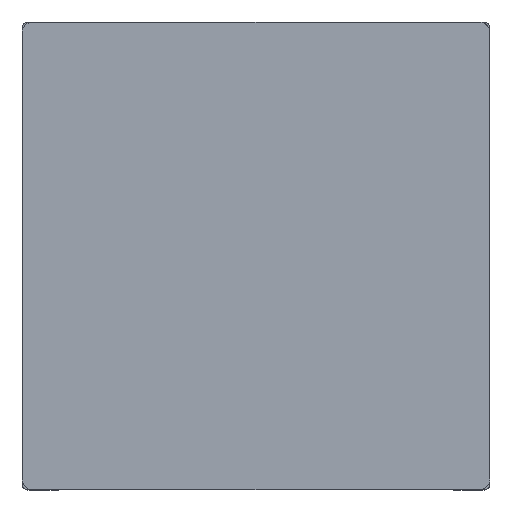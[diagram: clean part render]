
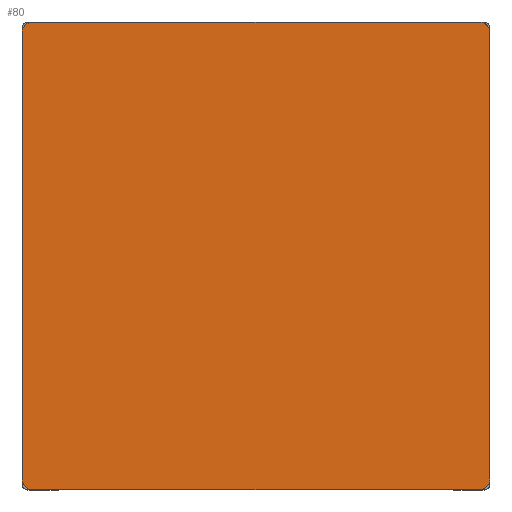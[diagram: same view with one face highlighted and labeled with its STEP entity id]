
A CAD part, top view. The second image highlights one B-rep face of the part: STEP entity #80.
In plain terms, the highlighted planar face has unit normal (0, 0, 1).
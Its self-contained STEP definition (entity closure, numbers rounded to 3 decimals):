
#80=ADVANCED_FACE($,(#238),#2098,.T.);
#238=FACE_OUTER_BOUND($,#396,.T.);
#396=EDGE_LOOP($,(#596,#597,#598,#599,#600,#601,#602,#603));
#596=ORIENTED_EDGE($,*,*,#1391,.F.);
#597=ORIENTED_EDGE($,*,*,#1382,.F.);
#598=ORIENTED_EDGE($,*,*,#1390,.F.);
#599=ORIENTED_EDGE($,*,*,#1381,.F.);
#600=ORIENTED_EDGE($,*,*,#1389,.F.);
#601=ORIENTED_EDGE($,*,*,#1380,.F.);
#602=ORIENTED_EDGE($,*,*,#1388,.F.);
#603=ORIENTED_EDGE($,*,*,#1383,.F.);
#1380=EDGE_CURVE($,#1781,#1780,#2350,.T.);
#1381=EDGE_CURVE($,#1783,#1782,#2351,.T.);
#1382=EDGE_CURVE($,#1785,#1784,#2352,.T.);
#1383=EDGE_CURVE($,#1787,#1786,#2353,.T.);
#1388=EDGE_CURVE($,#1786,#1781,#2166,.T.);
#1389=EDGE_CURVE($,#1780,#1783,#2167,.T.);
#1390=EDGE_CURVE($,#1782,#1785,#2168,.T.);
#1391=EDGE_CURVE($,#1784,#1787,#2169,.T.);
#1780=VERTEX_POINT($,#2918);
#1781=VERTEX_POINT($,#2919);
#1782=VERTEX_POINT($,#2920);
#1783=VERTEX_POINT($,#2921);
#1784=VERTEX_POINT($,#2922);
#1785=VERTEX_POINT($,#2923);
#1786=VERTEX_POINT($,#2924);
#1787=VERTEX_POINT($,#2925);
#2098=PLANE($,#2648);
#2166=(
BOUNDED_CURVE()
B_SPLINE_CURVE(2,(#2812,#2813,#2814),.UNSPECIFIED.,.F.,.F.)
B_SPLINE_CURVE_WITH_KNOTS((3,3),(-1.,0.),.UNSPECIFIED.)
CURVE()
GEOMETRIC_REPRESENTATION_ITEM()
RATIONAL_B_SPLINE_CURVE((1.,0.707,1.))
REPRESENTATION_ITEM($)
);
#2167=(
BOUNDED_CURVE()
B_SPLINE_CURVE(2,(#2815,#2816,#2817),.UNSPECIFIED.,.F.,.F.)
B_SPLINE_CURVE_WITH_KNOTS((3,3),(0.,1.),.UNSPECIFIED.)
CURVE()
GEOMETRIC_REPRESENTATION_ITEM()
RATIONAL_B_SPLINE_CURVE((1.,0.707,1.))
REPRESENTATION_ITEM($)
);
#2168=(
BOUNDED_CURVE()
B_SPLINE_CURVE(2,(#2818,#2819,#2820),.UNSPECIFIED.,.F.,.F.)
B_SPLINE_CURVE_WITH_KNOTS((3,3),(0.,1.),.UNSPECIFIED.)
CURVE()
GEOMETRIC_REPRESENTATION_ITEM()
RATIONAL_B_SPLINE_CURVE((1.,0.707,1.))
REPRESENTATION_ITEM($)
);
#2169=(
BOUNDED_CURVE()
B_SPLINE_CURVE(2,(#2821,#2822,#2823),.UNSPECIFIED.,.F.,.F.)
B_SPLINE_CURVE_WITH_KNOTS((3,3),(0.,1.),.UNSPECIFIED.)
CURVE()
GEOMETRIC_REPRESENTATION_ITEM()
RATIONAL_B_SPLINE_CURVE((1.,0.707,1.))
REPRESENTATION_ITEM($)
);
#2350=B_SPLINE_CURVE_WITH_KNOTS($,1,(#2792,#2793),.UNSPECIFIED.,.F.,.F.,
(2,2),(30.,1270.),.UNSPECIFIED.);
#2351=B_SPLINE_CURVE_WITH_KNOTS($,1,(#2794,#2795),.UNSPECIFIED.,.F.,.F.,
(2,2),(30.,1270.),.UNSPECIFIED.);
#2352=B_SPLINE_CURVE_WITH_KNOTS($,1,(#2796,#2797),.UNSPECIFIED.,.F.,.F.,
(2,2),(30.,1270.),.UNSPECIFIED.);
#2353=B_SPLINE_CURVE_WITH_KNOTS($,1,(#2798,#2799),.UNSPECIFIED.,.F.,.F.,
(2,2),(30.,1270.),.UNSPECIFIED.);
#2648=AXIS2_PLACEMENT_3D($,#2858,#2717,$);
#2717=DIRECTION($,(0.,0.,1.));
#2792=CARTESIAN_POINT($,(0.,30.,402.));
#2793=CARTESIAN_POINT($,(0.,1270.,402.));
#2794=CARTESIAN_POINT($,(30.,1300.,402.));
#2795=CARTESIAN_POINT($,(1270.,1300.,402.));
#2796=CARTESIAN_POINT($,(1300.,1270.,402.));
#2797=CARTESIAN_POINT($,(1300.,30.,402.));
#2798=CARTESIAN_POINT($,(1270.,0.,402.));
#2799=CARTESIAN_POINT($,(30.,0.,402.));
#2812=CARTESIAN_POINT($,(30.,0.,402.));
#2813=CARTESIAN_POINT($,(0.,0.,402.));
#2814=CARTESIAN_POINT($,(0.,30.,402.));
#2815=CARTESIAN_POINT($,(0.,1270.,402.));
#2816=CARTESIAN_POINT($,(0.,1300.,402.));
#2817=CARTESIAN_POINT($,(30.,1300.,402.));
#2818=CARTESIAN_POINT($,(1270.,1300.,402.));
#2819=CARTESIAN_POINT($,(1300.,1300.,402.));
#2820=CARTESIAN_POINT($,(1300.,1270.,402.));
#2821=CARTESIAN_POINT($,(1300.,30.,402.));
#2822=CARTESIAN_POINT($,(1300.,0.,402.));
#2823=CARTESIAN_POINT($,(1270.,0.,402.));
#2858=CARTESIAN_POINT($,(0.,0.,402.));
#2918=CARTESIAN_POINT($,(0.,1270.,402.));
#2919=CARTESIAN_POINT($,(0.,30.,402.));
#2920=CARTESIAN_POINT($,(1270.,1300.,402.));
#2921=CARTESIAN_POINT($,(30.,1300.,402.));
#2922=CARTESIAN_POINT($,(1300.,30.,402.));
#2923=CARTESIAN_POINT($,(1300.,1270.,402.));
#2924=CARTESIAN_POINT($,(30.,0.,402.));
#2925=CARTESIAN_POINT($,(1270.,0.,402.));
